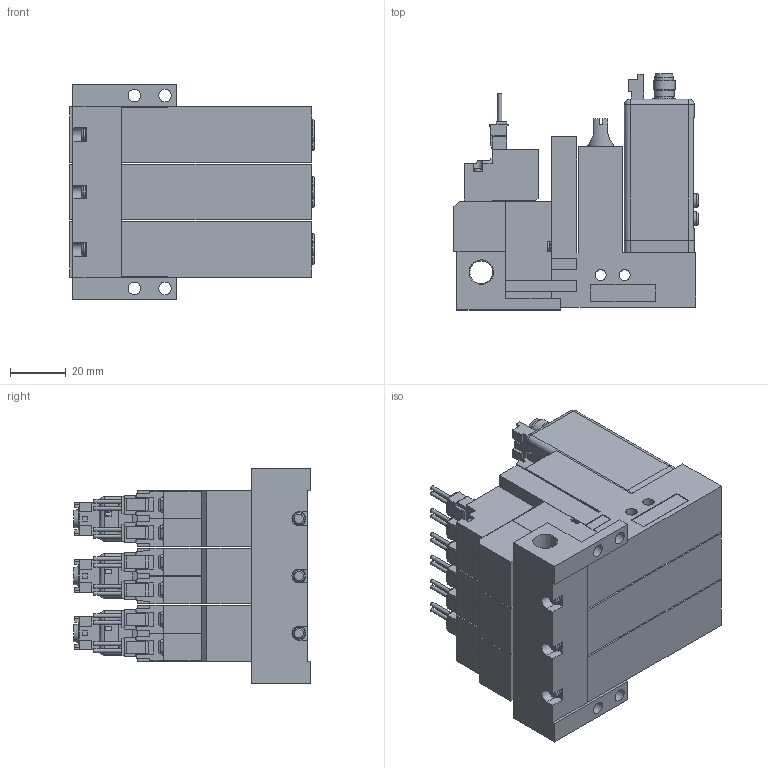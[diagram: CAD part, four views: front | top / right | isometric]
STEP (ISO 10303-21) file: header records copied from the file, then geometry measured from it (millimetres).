
FILE_DESCRIPTION(('STEP AP203'),'1');
FILE_NAME('22_22PL5BLR303.stp','2025-06-12T02:16:13',(' '),(' '),'Spatial InterOp 3D',' ',' ');
FILE_SCHEMA(('CONFIG_CONTROL_DESIGN'));
Length unit declared in the file: millimetre
Products named in the file (7): BMC22M※※※※22_22PL5BLR303; Solenoid valve B; Unit L; Base MR30R; MVS-202
Assembly tree (10 placements, depth 2):
  BMC22M※※※※22_22PL5BLR303
    Solenoid valve B  x3
    Unit L  x3
    Base MR30R
    MVS-202
    MVS-202
    MVS-202
Bounding box: 87.5 x 84.6 x 77 mm (x, y, z)
Volume: 291618.1 mm3; surface area: 88827.9 mm2
Topology: 10 solids, 22 shells, 2253 faces, 5867 edges, 3835 vertices
Faces by surface type: plane 1892, cylinder 281, cone 50, torus 18, sphere 12
Full cylindrical faces by diameter (mm): 1 x12, 1.4 x12, 1.5 x3, 2.5 x3, 3 x12, 3.5 x12, 3.6 x3, 4 x6, 4.134 x3, 4.5 x16, 4.8 x9, 5 x6, 5.2 x3, 5.8 x6, 6 x6, 6.5 x9, 6.6 x3, 7 x3, 7.2 x3, 7.9 x3, 8 x6, 8.279 x1
Entity records: 48821 total; most frequent: CARTESIAN_POINT 8791, ORIENTED_EDGE 7998, DIRECTION 7863, EDGE_CURVE 3999, LINE 3381, VECTOR 3381, VERTEX_POINT 2709, AXIS2_PLACEMENT_3D 2241
